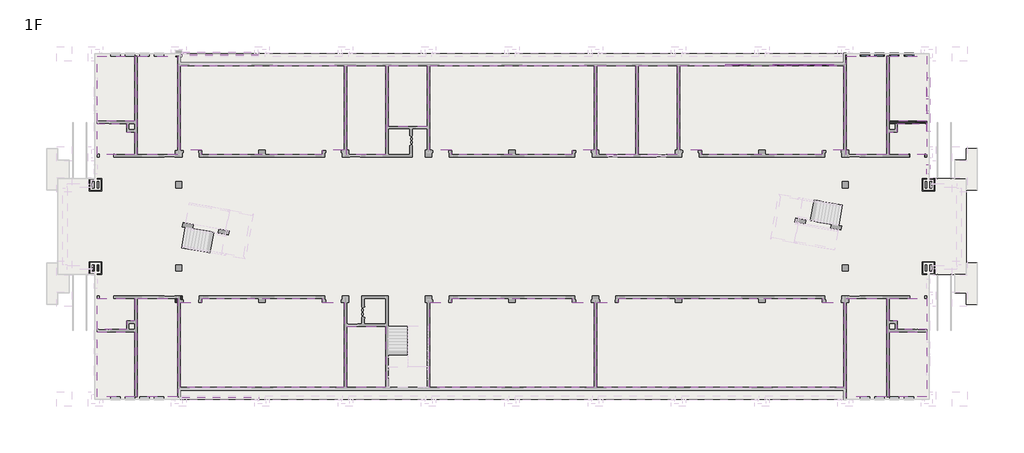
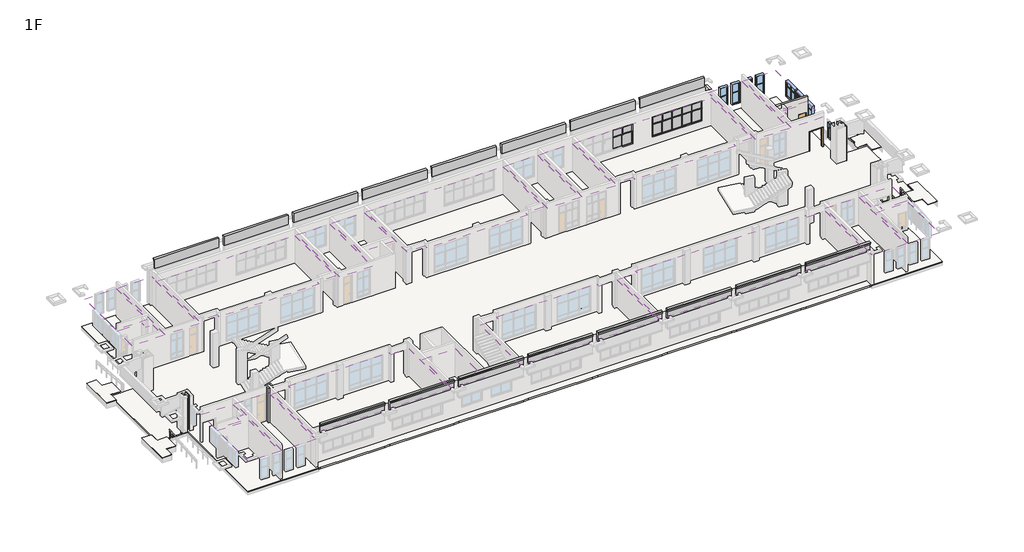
# One storey, part 7 of 16: 33 members, 23 coverings, 11 plates, 8 windows, 7 slabs, 5 walls, 2 columns, 2 doors, 2 proxies.
"""IFC4 building model written with IfcOpenShell, lengths in millimetres."""

from ifc_helpers import new_model, si_unit, frame, origin, origin_with_axes, place, context, project, spatial, polyline, outline, extrude, faceted_brep, transform, mapped, element, save
from components import dk2_dk2_fd451be2, m3_m3_68d9ec90, member_7564be38, member_1f4d75dd, member_0b7842ad, member_163d5e45, member_ffafc35e, member_2b011958, member_9c26cac3, member_6c42befd, member_a374fdad, plate_75e73fbb, plate_f4dba16c, plate_1cc4df2b, plate_4fa5932a, plate_00f9c624, window_f154a97f, lc1_lc1_5b152119, lc2_lc2_a0e1ef0e, lc7_lc7_d4e3c0d7, lc7a_lc7a_17cb4d8c

model = new_model("IFC4")

# Units and contexts
model_context = context("Model", 3, world=origin())
ifc_project = project(units=[si_unit("LENGTHUNIT", "METRE", prefix="MILLI")], contexts=[model_context])

# Site, building, storey
site = spatial("IfcSite", under=ifc_project)
building = spatial("IfcBuilding", under=site)
storey = spatial("IfcBuildingStorey", under=building, Name="1F", Elevation=0.0)

# Proxies
placement = place(None, origin())
element("IfcBuildingElementProxy", 1, Name="空调板围档", ObjectType="空调板围档", at=placement, inside=storey, context=model_context, shape_type="SweptSolid", body=[
    extrude(outline(polyline([(33280.0, 5020.0), (33200.0, 5020.0), (33200.0, 4180.0), (33050.0, 4180.0), (33050.0, 5320.0), (33330.0, 5320.0), (33330.0, 5220.0), (33280.0, 5220.0), (33280.0, 5020.0)])), frame((11300.0, 0.0, 0.0), z_axis=(1.0, 0.0, 0.0), x_axis=(0.0, 1.0, 0.0)), (0.0, 0.0, 1.0), 7400.0),
    extrude(outline(polyline([(33280.0, 5020.0), (33200.0, 5020.0), (33200.0, 4180.0), (33050.0, 4180.0), (33050.0, 5320.0), (33330.0, 5320.0), (33330.0, 5220.0), (33280.0, 5220.0), (33280.0, 5020.0)])), frame((19300.0, 0.0, 0.0), z_axis=(1.0, 0.0, 0.0), x_axis=(0.0, 1.0, 0.0)), (0.0, 0.0, 1.0), 7400.0),
    extrude(outline(polyline([(33280.0, 5020.0), (33200.0, 5020.0), (33200.0, 4180.0), (33050.0, 4180.0), (33050.0, 5320.0), (33330.0, 5320.0), (33330.0, 5220.0), (33280.0, 5220.0), (33280.0, 5020.0)])), frame((27300.0, 0.0, 0.0), z_axis=(1.0, 0.0, 0.0), x_axis=(0.0, 1.0, 0.0)), (0.0, 0.0, 1.0), 7400.0),
    extrude(outline(polyline([(33280.0, 5020.0), (33200.0, 5020.0), (33200.0, 4180.0), (33050.0, 4180.0), (33050.0, 5320.0), (33330.0, 5320.0), (33330.0, 5220.0), (33280.0, 5220.0), (33280.0, 5020.0)])), frame((35300.0, 0.0, 0.0), z_axis=(1.0, 0.0, 0.0), x_axis=(0.0, 1.0, 0.0)), (0.0, 0.0, 1.0), 7400.0),
    extrude(outline(polyline([(33280.0, 5020.0), (33200.0, 5020.0), (33200.0, 4180.0), (33050.0, 4180.0), (33050.0, 5320.0), (33330.0, 5320.0), (33330.0, 5220.0), (33280.0, 5220.0), (33280.0, 5020.0)])), frame((43300.0, 0.0, 0.0), z_axis=(1.0, 0.0, 0.0), x_axis=(0.0, 1.0, 0.0)), (0.0, 0.0, 1.0), 7400.0),
    extrude(outline(polyline([(33280.0, 5020.0), (33200.0, 5020.0), (33200.0, 4180.0), (33050.0, 4180.0), (33050.0, 5320.0), (33330.0, 5320.0), (33330.0, 5220.0), (33280.0, 5220.0), (33280.0, 5020.0)])), frame((51300.0, 0.0, 0.0), z_axis=(1.0, 0.0, 0.0), x_axis=(0.0, 1.0, 0.0)), (0.0, 0.0, 1.0), 7400.0),
    extrude(outline(polyline([(33280.0, 5020.0), (33200.0, 5020.0), (33200.0, 4180.0), (33050.0, 4180.0), (33050.0, 5320.0), (33330.0, 5320.0), (33330.0, 5220.0), (33280.0, 5220.0), (33280.0, 5020.0)])), frame((59300.0, 0.0, 0.0), z_axis=(1.0, 0.0, 0.0), x_axis=(0.0, 1.0, 0.0)), (0.0, 0.0, 1.0), 7400.0),
    extrude(outline(polyline([(33280.0, 5020.0), (33200.0, 5020.0), (33200.0, 4180.0), (33050.0, 4180.0), (33050.0, 5320.0), (33330.0, 5320.0), (33330.0, 5220.0), (33280.0, 5220.0), (33280.0, 5020.0)])), frame((67300.0, 0.0, 0.0), z_axis=(1.0, 0.0, 0.0), x_axis=(0.0, 1.0, 0.0)), (0.0, 0.0, 1.0), 7400.0),
])
element("IfcBuildingElementProxy", 2, Name="空调板围档", ObjectType="空调板围档", at=placement, inside=storey, context=model_context, shape_type="SweptSolid", body=[
    extrude(outline(polyline([(0.0, 5020.0), (-80.0, 5020.0), (-80.0, 5220.0), (-130.0, 5220.0), (-130.0, 5320.0), (150.0, 5320.0), (150.0, 4180.0), (0.0, 4180.0), (0.0, 5020.0)])), frame((11300.0, 0.0, 0.0), z_axis=(1.0, 0.0, 0.0), x_axis=(0.0, 1.0, 0.0)), (0.0, 0.0, 1.0), 7400.0),
    extrude(outline(polyline([(0.0, 5020.0), (-80.0, 5020.0), (-80.0, 5220.0), (-130.0, 5220.0), (-130.0, 5320.0), (150.0, 5320.0), (150.0, 4180.0), (0.0, 4180.0), (0.0, 5020.0)])), frame((19300.0, 0.0, 0.0), z_axis=(1.0, 0.0, 0.0), x_axis=(0.0, 1.0, 0.0)), (0.0, 0.0, 1.0), 7400.0),
    extrude(outline(polyline([(0.0, 5020.0), (-80.0, 5020.0), (-80.0, 5220.0), (-130.0, 5220.0), (-130.0, 5320.0), (150.0, 5320.0), (150.0, 4180.0), (0.0, 4180.0), (0.0, 5020.0)])), frame((27300.0, 0.0, 0.0), z_axis=(1.0, 0.0, 0.0), x_axis=(0.0, 1.0, 0.0)), (0.0, 0.0, 1.0), 7400.0),
    extrude(outline(polyline([(0.0, 5020.0), (-80.0, 5020.0), (-80.0, 5220.0), (-130.0, 5220.0), (-130.0, 5320.0), (150.0, 5320.0), (150.0, 4180.0), (0.0, 4180.0), (0.0, 5020.0)])), frame((35300.0, 0.0, 0.0), z_axis=(1.0, 0.0, 0.0), x_axis=(0.0, 1.0, 0.0)), (0.0, 0.0, 1.0), 7400.0),
    extrude(outline(polyline([(0.0, 5020.0), (-80.0, 5020.0), (-80.0, 5220.0), (-130.0, 5220.0), (-130.0, 5320.0), (150.0, 5320.0), (150.0, 4180.0), (0.0, 4180.0), (0.0, 5020.0)])), frame((43300.0, 0.0, 0.0), z_axis=(1.0, 0.0, 0.0), x_axis=(0.0, 1.0, 0.0)), (0.0, 0.0, 1.0), 7400.0),
    extrude(outline(polyline([(0.0, 5020.0), (-80.0, 5020.0), (-80.0, 5220.0), (-130.0, 5220.0), (-130.0, 5320.0), (150.0, 5320.0), (150.0, 4180.0), (0.0, 4180.0), (0.0, 5020.0)])), frame((51300.0, 0.0, 0.0), z_axis=(1.0, 0.0, 0.0), x_axis=(0.0, 1.0, 0.0)), (0.0, 0.0, 1.0), 7400.0),
    extrude(outline(polyline([(0.0, 5020.0), (-80.0, 5020.0), (-80.0, 5220.0), (-130.0, 5220.0), (-130.0, 5320.0), (150.0, 5320.0), (150.0, 4180.0), (0.0, 4180.0), (0.0, 5020.0)])), frame((59300.0, 0.0, 0.0), z_axis=(1.0, 0.0, 0.0), x_axis=(0.0, 1.0, 0.0)), (0.0, 0.0, 1.0), 7400.0),
    extrude(outline(polyline([(0.0, 5020.0), (-80.0, 5020.0), (-80.0, 5220.0), (-130.0, 5220.0), (-130.0, 5320.0), (150.0, 5320.0), (150.0, 4180.0), (0.0, 4180.0), (0.0, 5020.0)])), frame((67300.0, 0.0, 0.0), z_axis=(1.0, 0.0, 0.0), x_axis=(0.0, 1.0, 0.0)), (0.0, 0.0, 1.0), 7400.0),
])

# Columns
element("IfcColumn", 3, ObjectType="矩形柱 : 600 x 600mm", at=placement, inside=storey, context=model_context, shape_type="SweptSolid", body=[
    extrude(outline(polyline([(3300.0, 12900.0), (3300.0, 12300.0), (3167.0000002, 12300.0), (3167.0000002, 12900.0), (3300.0, 12900.0)])), origin_with_axes(), (0.0, 0.0, 1.0), 4200.0),
    extrude(outline(polyline([(2700.0, 12300.0), (2700.0, 12900.0), (2897.0000002, 12900.0), (2897.0000002, 12300.0), (2700.0, 12300.0)])), origin_with_axes(), (0.0, 0.0, 1.0), 4200.0),
])
element("IfcColumn", 4, ObjectType="矩形柱 : 634 x 634mm", at=placement, inside=storey, context=model_context, shape_type="SweptSolid", body=[
    extrude(outline(polyline([(11117.0, 9917.0), (11317.0, 9917.0), (11317.0, 9517.2768988), (11117.0, 9517.2768988), (11117.0, 9917.0)])), origin_with_axes(), (0.0, 0.0, 1.0), 4200.0),
    extrude(outline(polyline([(10883.0, 9283.0), (10683.0, 9283.0), (10683.0, 9683.276907), (10883.0, 9683.276907), (10883.0, 9283.0)])), origin_with_axes(), (0.0, 0.0, 1.0), 4200.0),
    extrude(outline(polyline([(11317.0, 9283.0), (11117.0, 9283.0), (11117.0, 9283.2768988), (11317.0, 9283.2768988), (11317.0, 9283.0)])), origin_with_axes(), (0.0, 0.0, 1.0), 4200.0),
])

# Coverings
element("IfcCovering", 5, ObjectType="教学楼 - 悬吊式顶棚 - 36mm", at=placement, inside=storey, context=model_context, shape_type="SweptSolid", body=[
    extrude(outline(polyline([(3167.0000002, 26716.2230983), (3167.0000002, 32982.6954639), (6783.0000003, 32982.6954639), (6783.0000003, 26716.2230983), (3167.0000002, 26716.2230983)])), frame((0.0, 0.0, 3400.0), z_axis=(0.0, 0.0, 1.0), x_axis=(1.0, 0.0, 0.0)), (0.0, 0.0, 1.0), 52.0),
])
element("IfcCovering", 6, ObjectType="教学楼 - 悬吊式顶棚 - 36mm", at=placement, inside=storey, context=model_context, shape_type="SweptSolid", body=[
    extrude(outline(polyline([(6783.0000003, 23516.723093), (3167.0000002, 23516.723093), (3167.0000002, 26482.2230983), (5983.0000019, 26482.2230983), (5983.0000019, 25682.2231012), (6783.0000003, 25682.2231012), (6783.0000003, 23516.723093)])), frame((0.0, 0.0, 3400.0), z_axis=(0.0, 0.0, 1.0), x_axis=(1.0, 0.0, 0.0)), (0.0, 0.0, 1.0), 52.0),
])
element("IfcCovering", 7, ObjectType="教学楼 - 悬吊式顶棚 - 36mm", at=placement, inside=storey, context=model_context, shape_type="SweptSolid", body=[
    extrude(outline(polyline([(7017.0000003, 23516.723093), (7017.0000003, 32982.6954639), (10883.0, 32982.6954639), (10883.0, 32200.0), (10883.0, 23516.723093), (7017.0000003, 23516.723093)])), frame((0.0, 0.0, 3400.0), z_axis=(0.0, 0.0, 1.0), x_axis=(1.0, 0.0, 0.0)), (0.0, 0.0, 1.0), 52.0),
])
element("IfcCovering", 8, ObjectType="教学楼 - 悬吊式顶棚 - 36mm", at=placement, inside=storey, context=model_context, shape_type="SweptSolid", body=[
    extrude(outline(polyline([(11117.0, 23916.7231012), (11117.0, 32065.0), (26883.0, 32065.0), (26883.0, 23916.7231007), (24782.9999964, 23916.7231007), (24782.9999964, 23516.6954641), (13216.9999996, 23516.6954641), (13216.9999996, 23916.7231012), (11117.0, 23916.7231012)])), frame((0.0, 0.0, 3400.0), z_axis=(0.0, 0.0, 1.0), x_axis=(1.0, 0.0, 0.0)), (0.0, 0.0, 1.0), 52.0),
])
element("IfcCovering", 9, ObjectType="教学楼 - 悬吊式顶棚 - 36mm", at=placement, inside=storey, context=model_context, shape_type="SweptSolid", body=[
    extrude(outline(polyline([(27117.0, 23516.6954638), (27117.0, 32065.0), (30883.0000029, 32065.0), (30883.0000029, 23516.6954638), (27117.0, 23516.6954638)])), frame((0.0, 0.0, 3400.0), z_axis=(0.0, 0.0, 1.0), x_axis=(1.0, 0.0, 0.0)), (0.0, 0.0, 1.0), 52.0),
])
element("IfcCovering", 10, ObjectType="教学楼 - 悬吊式顶棚 - 36mm", at=placement, inside=storey, context=model_context, shape_type="SweptSolid", body=[
    extrude(outline(polyline([(31117.0000029, 26216.6954638), (31117.0000029, 32065.0), (34883.0, 32065.0), (34883.0, 26216.6954638), (31117.0000029, 26216.6954638)])), frame((0.0, 0.0, 3400.0), z_axis=(0.0, 0.0, 1.0), x_axis=(1.0, 0.0, 0.0)), (0.0, 0.0, 1.0), 52.0),
])
element("IfcCovering", 11, ObjectType="教学楼 - 悬吊式顶棚 - 36mm", at=placement, inside=storey, context=model_context, shape_type="SweptSolid", body=[
    extrude(outline(polyline([(35117.0, 23916.7231012), (35117.0, 32065.0), (50883.0, 32065.0), (50883.0, 23916.7231007), (48783.0000007, 23916.7231007), (48783.0000007, 23516.695464), (37216.999999, 23516.695464), (37216.999999, 23916.7231012), (35117.0, 23916.7231012)])), frame((0.0, 0.0, 3400.0), z_axis=(0.0, 0.0, 1.0), x_axis=(1.0, 0.0, 0.0)), (0.0, 0.0, 1.0), 52.0),
])
element("IfcCovering", 12, ObjectType="教学楼 - 悬吊式顶棚 - 36mm", at=placement, inside=storey, context=model_context, shape_type="SweptSolid", body=[
    extrude(outline(polyline([(51117.0, 23516.6954639), (51117.0, 32065.0), (54883.0000001, 32065.0), (54883.0000001, 23516.6954639), (51117.0, 23516.6954639)])), frame((0.0, 0.0, 3400.0), z_axis=(0.0, 0.0, 1.0), x_axis=(1.0, 0.0, 0.0)), (0.0, 0.0, 1.0), 52.0),
])
element("IfcCovering", 13, ObjectType="教学楼 - 悬吊式顶棚 - 36mm", at=placement, inside=storey, context=model_context, shape_type="SweptSolid", body=[
    extrude(outline(polyline([(55117.0000001, 23516.6954639), (55117.0000001, 32065.0), (58883.0, 32065.0), (58883.0, 23516.6954639), (55117.0000001, 23516.6954639)])), frame((0.0, 0.0, 3400.0), z_axis=(0.0, 0.0, 1.0), x_axis=(1.0, 0.0, 0.0)), (0.0, 0.0, 1.0), 52.0),
])
element("IfcCovering", 14, ObjectType="教学楼 - 悬吊式顶棚 - 36mm", at=placement, inside=storey, context=model_context, shape_type="SweptSolid", body=[
    extrude(outline(polyline([(59117.0, 23916.7231012), (59117.0, 32065.0), (74883.0, 32065.0), (74883.0, 23916.7231011), (72783.0, 23916.7231011), (72783.0, 23516.6954638), (61217.0000032, 23516.6954638), (61217.0000032, 23916.7231012), (59117.0, 23916.7231012)])), frame((0.0, 0.0, 3400.0), z_axis=(0.0, 0.0, 1.0), x_axis=(1.0, 0.0, 0.0)), (0.0, 0.0, 1.0), 52.0),
])
element("IfcCovering", 15, ObjectType="教学楼 - 悬吊式顶棚 - 36mm", at=placement, inside=storey, context=model_context, shape_type="SweptSolid", body=[
    extrude(outline(polyline([(75117.0, 23516.2230996), (75117.0, 32200.0), (75117.0, 32982.6954642), (78983.0000003, 32982.6954642), (78983.0000003, 23516.2230996), (75117.0, 23516.2230996)])), frame((0.0, 0.0, 3400.0), z_axis=(0.0, 0.0, 1.0), x_axis=(1.0, 0.0, 0.0)), (0.0, 0.0, 1.0), 52.0),
])
element("IfcCovering", 16, ObjectType="教学楼 - 悬吊式顶棚 - 36mm", at=placement, inside=storey, context=model_context, shape_type="SweptSolid", body=[
    extrude(outline(polyline([(79217.0000003, 26716.2230996), (79217.0000003, 32982.6954642), (82832.9999995, 32982.6954642), (82832.9999995, 26716.2230996), (79217.0000003, 26716.2230996)])), frame((0.0, 0.0, 3400.0), z_axis=(0.0, 0.0, 1.0), x_axis=(1.0, 0.0, 0.0)), (0.0, 0.0, 1.0), 52.0),
])
element("IfcCovering", 17, ObjectType="教学楼 - 悬吊式顶棚 - 36mm", at=placement, inside=storey, context=model_context, shape_type="SweptSolid", body=[
    extrude(outline(polyline([(82832.9999995, 26482.2230996), (82832.9999995, 23516.2230996), (79217.0000003, 23516.2230996), (79217.0000003, 25682.2230996), (80016.9999995, 25682.2230996), (80016.9999995, 26482.2230996), (82832.9999995, 26482.2230996)])), frame((0.0, 0.0, 3400.0), z_axis=(0.0, 0.0, 1.0), x_axis=(1.0, 0.0, 0.0)), (0.0, 0.0, 1.0), 52.0),
])
element("IfcCovering", 18, ObjectType="教学楼 - 悬吊式顶棚 - 36mm", at=placement, inside=storey, context=model_context, shape_type="SweptSolid", body=[
    extrude(outline(polyline([(82832.9999995, 9683.7769004), (82832.9999995, 6717.7769004), (80016.9999995, 6717.7769004), (80016.9999995, 7517.7769004), (79217.0000003, 7517.7769004), (79217.0000003, 9683.7769004), (82832.9999995, 9683.7769004)])), frame((0.0, 0.0, 3400.0), z_axis=(0.0, 0.0, 1.0), x_axis=(1.0, 0.0, 0.0)), (0.0, 0.0, 1.0), 52.0),
])
element("IfcCovering", 19, ObjectType="教学楼 - 悬吊式顶棚 - 36mm", at=placement, inside=storey, context=model_context, shape_type="SweptSolid", body=[
    extrude(outline(polyline([(82832.9999995, 6483.7769004), (82832.9999995, 217.3045358), (79217.0000003, 217.3045358), (79217.0000003, 6483.7769004), (82832.9999995, 6483.7769004)])), frame((0.0, 0.0, 3400.0), z_axis=(0.0, 0.0, 1.0), x_axis=(1.0, 0.0, 0.0)), (0.0, 0.0, 1.0), 52.0),
])
element("IfcCovering", 20, ObjectType="教学楼 - 悬吊式顶棚 - 36mm", at=placement, inside=storey, context=model_context, shape_type="SweptSolid", body=[
    extrude(outline(polyline([(78983.0000003, 217.3045358), (75117.0, 217.3045358), (75117.0, 1000.0), (75117.0, 9683.7769004), (78983.0000003, 9683.7769004), (78983.0000003, 217.3045358)])), frame((0.0, 0.0, 3400.0), z_axis=(0.0, 0.0, 1.0), x_axis=(1.0, 0.0, 0.0)), (0.0, 0.0, 1.0), 52.0),
])
element("IfcCovering", 21, ObjectType="教学楼 - 悬吊式顶棚 - 36mm", at=placement, inside=storey, context=model_context, shape_type="SweptSolid", body=[
    extrude(outline(polyline([(74883.0, 9283.2768989), (74883.0, 1135.0), (51117.0, 1135.0), (51117.0, 9283.2768993), (53216.9999993, 9283.2768993), (53216.9999993, 9683.3045361), (72783.0, 9683.3045361), (72783.0, 9283.2768989), (74883.0, 9283.2768989)])), frame((0.0, 0.0, 3400.0), z_axis=(0.0, 0.0, 1.0), x_axis=(1.0, 0.0, 0.0)), (0.0, 0.0, 1.0), 52.0),
])
element("IfcCovering", 22, ObjectType="教学楼 - 悬吊式顶棚 - 36mm", at=placement, inside=storey, context=model_context, shape_type="SweptSolid", body=[
    extrude(outline(polyline([(50883.0, 9283.2768993), (50883.0, 1135.0), (35117.0, 1135.0), (35117.0, 9283.2768988), (37216.999999, 9283.2768988), (37216.999999, 9683.304536), (48783.0000007, 9683.304536), (48783.0000007, 9283.2768993), (50883.0, 9283.2768993)])), frame((0.0, 0.0, 3400.0), z_axis=(0.0, 0.0, 1.0), x_axis=(1.0, 0.0, 0.0)), (0.0, 0.0, 1.0), 52.0),
])
element("IfcCovering", 23, ObjectType="教学楼 - 悬吊式顶棚 - 36mm", at=placement, inside=storey, context=model_context, shape_type="SweptSolid", body=[
    extrude(outline(polyline([(30883.0000029, 6983.3045362), (30883.0000029, 1135.0), (27117.0, 1135.0), (27117.0, 6983.3045362), (30883.0000029, 6983.3045362)])), frame((0.0, 0.0, 3400.0), z_axis=(0.0, 0.0, 1.0), x_axis=(1.0, 0.0, 0.0)), (0.0, 0.0, 1.0), 52.0),
])
element("IfcCovering", 24, ObjectType="教学楼 - 悬吊式顶棚 - 36mm", at=placement, inside=storey, context=model_context, shape_type="SweptSolid", body=[
    extrude(outline(polyline([(26883.0, 9283.2768993), (26883.0, 1135.0), (11117.0, 1135.0), (11117.0, 9283.2768988), (13216.9999996, 9283.2768988), (13216.9999996, 9683.3045359), (24782.9999964, 9683.3045359), (24782.9999964, 9283.2768993), (26883.0, 9283.2768993)])), frame((0.0, 0.0, 3400.0), z_axis=(0.0, 0.0, 1.0), x_axis=(1.0, 0.0, 0.0)), (0.0, 0.0, 1.0), 52.0),
])
element("IfcCovering", 25, ObjectType="教学楼 - 悬吊式顶棚 - 36mm", at=placement, inside=storey, context=model_context, shape_type="SweptSolid", body=[
    extrude(outline(polyline([(10883.0, 1000.0), (10883.0, 217.3045361), (7017.0000003, 217.3045361), (7017.0000003, 9683.276907), (10883.0, 9683.276907), (10883.0, 1000.0)])), frame((0.0, 0.0, 3400.0), z_axis=(0.0, 0.0, 1.0), x_axis=(1.0, 0.0, 0.0)), (0.0, 0.0, 1.0), 52.0),
])
element("IfcCovering", 26, ObjectType="教学楼 - 悬吊式顶棚 - 36mm", at=placement, inside=storey, context=model_context, shape_type="SweptSolid", body=[
    extrude(outline(polyline([(6783.0000003, 217.3045361), (3167.0000002, 217.3045361), (3167.0000002, 6483.7769017), (6783.0000003, 6483.7769017), (6783.0000003, 217.3045361)])), frame((0.0, 0.0, 3400.0), z_axis=(0.0, 0.0, 1.0), x_axis=(1.0, 0.0, 0.0)), (0.0, 0.0, 1.0), 52.0),
])
element("IfcCovering", 27, ObjectType="教学楼 - 悬吊式顶棚 - 36mm", at=placement, inside=storey, context=model_context, shape_type="SweptSolid", body=[
    extrude(outline(polyline([(3167.0000002, 6717.7769017), (3167.0000002, 9683.276907), (6783.0000003, 9683.276907), (6783.0000003, 7517.7768988), (5983.0000019, 7517.7768988), (5983.0000019, 6717.7769017), (3167.0000002, 6717.7769017)])), frame((0.0, 0.0, 3400.0), z_axis=(0.0, 0.0, 1.0), x_axis=(1.0, 0.0, 0.0)), (0.0, 0.0, 1.0), 52.0),
])

# Doors
dk2_dk2_shape = dk2_dk2_fd451be2(model_context)
element("IfcDoor", 28, ObjectType="DK2 : DK2", at=placement, inside=storey, context=model_context, shape_type="MappedRepresentation", body=[
    mapped(dk2_dk2_shape, transform((81925.0, 23399.2230996, 0.0), x_axis=(1.0, 0.0, 0.0), y_axis=(0.0, 1.0, 0.0), z_axis=(0.0, 0.0, 1.0))),
])
m3_m3_shape = m3_m3_68d9ec90(model_context)
element("IfcDoor", 29, ObjectType="M3 : M3", at=placement, inside=storey, context=model_context, shape_type="MappedRepresentation", body=[
    mapped(m3_m3_shape, transform((82209.9999983, 26599.2230996, 0.0), x_axis=(-1.0, 0.0, 0.0), y_axis=(0.0, -1.0, 0.0), z_axis=(0.0, 0.0, 1.0))),
])

# Members
member_shape = member_7564be38(model_context)
element("IfcMember", 30, ObjectType="矩形竖梃 : 教学楼 – 矩形竖梃 – 100x150mm", at=placement, inside=storey, context=model_context, shape_type="MappedRepresentation", body=[
    mapped(member_shape, transform((65900.0000002, 32200.0, 3400.0), x_axis=(0.0, 0.0, 1.0), y_axis=(0.0, -1.0, 0.0), z_axis=(1.0, 0.0, 0.0))),
])
element("IfcMember", 31, ObjectType="矩形竖梃 : 教学楼 – 矩形竖梃 – 100x150mm", at=placement, inside=storey, context=model_context, shape_type="MappedRepresentation", body=[
    mapped(member_shape, transform((73899.9999995, 32200.0, 3400.0), x_axis=(0.0, 0.0, 1.0), y_axis=(0.0, -1.0, 0.0), z_axis=(1.0, 0.0, 0.0))),
])
element("IfcMember", 32, ObjectType="矩形竖梃 : 教学楼 – 矩形竖梃 – 100x150mm", at=placement, inside=storey, context=model_context, shape_type="MappedRepresentation", body=[
    mapped(member_shape, transform((68099.9999995, 32200.0, 900.0), x_axis=(0.0, 0.0, -1.0), y_axis=(0.0, -1.0, 0.0), z_axis=(-1.0, 0.0, 0.0))),
])
member_2_shape = member_1f4d75dd(model_context)
element("IfcMember", 33, ObjectType="矩形竖梃 : 教学楼 – 矩形竖梃 – 50x150mm", at=placement, inside=storey, context=model_context, shape_type="MappedRepresentation", body=[
    mapped(member_2_shape, transform((70449.9999995, 32200.0, 1000.0), x_axis=(1.0, 0.0, 0.0), y_axis=(0.0, -1.0, 0.0), z_axis=(0.0, 0.0, -1.0))),
])
element("IfcMember", 34, ObjectType="矩形竖梃 : 教学楼 – 矩形竖梃 – 50x150mm", at=placement, inside=storey, context=model_context, shape_type="MappedRepresentation", body=[
    mapped(member_2_shape, transform((71549.9999995, 32200.0, 1000.0), x_axis=(1.0, 0.0, 0.0), y_axis=(0.0, -1.0, 0.0), z_axis=(0.0, 0.0, -1.0))),
])
member_3_shape = member_0b7842ad(model_context)
element("IfcMember", 35, ObjectType="矩形竖梃 : 教学楼 – 矩形竖梃 – 50x150mm", at=placement, inside=storey, context=model_context, shape_type="MappedRepresentation", body=[
    mapped(member_3_shape, transform((69299.9999995, 32200.0, 2450.0), x_axis=(0.0, 0.0, 1.0), y_axis=(0.0, -1.0, 0.0), z_axis=(1.0, 0.0, 0.0))),
])
member_4_shape = member_163d5e45(model_context)
element("IfcMember", 36, ObjectType="矩形竖梃 : 教学楼 – 矩形竖梃 – 50x150mm", at=placement, inside=storey, context=model_context, shape_type="MappedRepresentation", body=[
    mapped(member_4_shape, transform((64700.0000002, 32200.0, 2450.0), x_axis=(0.0, 0.0, 1.0), y_axis=(0.0, -1.0, 0.0), z_axis=(1.0, 0.0, 0.0))),
])
element("IfcMember", 37, ObjectType="矩形竖梃 : 教学楼 – 矩形竖梃 – 50x150mm", at=placement, inside=storey, context=model_context, shape_type="MappedRepresentation", body=[
    mapped(member_4_shape, transform((70449.9999995, 32200.0, 2450.0), x_axis=(0.0, 0.0, 1.0), y_axis=(0.0, -1.0, 0.0), z_axis=(1.0, 0.0, 0.0))),
])
element("IfcMember", 38, ObjectType="矩形竖梃 : 教学楼 – 矩形竖梃 – 50x150mm", at=placement, inside=storey, context=model_context, shape_type="MappedRepresentation", body=[
    mapped(member_4_shape, transform((72699.9999995, 32200.0, 2450.0), x_axis=(0.0, 0.0, 1.0), y_axis=(0.0, -1.0, 0.0), z_axis=(1.0, 0.0, 0.0))),
])
element("IfcMember", 39, ObjectType="矩形竖梃 : 教学楼 – 矩形竖梃 – 50x150mm", at=placement, inside=storey, context=model_context, shape_type="MappedRepresentation", body=[
    mapped(member_3_shape, transform((71549.9999995, 32200.0, 2450.0), x_axis=(0.0, 0.0, 1.0), y_axis=(0.0, -1.0, 0.0), z_axis=(1.0, 0.0, 0.0))),
])
element("IfcMember", 40, ObjectType="矩形竖梃 : 教学楼 – 矩形竖梃 – 50x150mm", at=placement, inside=storey, context=model_context, shape_type="MappedRepresentation", body=[
    mapped(member_3_shape, transform((65800.0000002, 32200.0, 2450.0), x_axis=(0.0, 0.0, 1.0), y_axis=(0.0, -1.0, 0.0), z_axis=(1.0, 0.0, 0.0))),
])
element("IfcMember", 41, ObjectType="矩形竖梃 : 教学楼 – 矩形竖梃 – 50x150mm", at=placement, inside=storey, context=model_context, shape_type="MappedRepresentation", body=[
    mapped(member_3_shape, transform((73799.9999995, 32200.0, 2450.0), x_axis=(0.0, 0.0, 1.0), y_axis=(0.0, -1.0, 0.0), z_axis=(1.0, 0.0, 0.0))),
])
member_5_shape = member_ffafc35e(model_context)
element("IfcMember", 42, ObjectType="矩形竖梃 : 教学楼 – 矩形竖梃 – 100x150mm", at=placement, inside=storey, context=model_context, shape_type="MappedRepresentation", body=[
    mapped(member_5_shape, transform((69299.9999995, 32200.0, 900.0), x_axis=(0.0, 0.0, -1.0), y_axis=(0.0, -1.0, 0.0), z_axis=(-1.0, 0.0, 0.0))),
])
member_6_shape = member_2b011958(model_context)
element("IfcMember", 43, ObjectType="矩形竖梃 : 教学楼 – 矩形竖梃 – 100x150mm", at=placement, inside=storey, context=model_context, shape_type="MappedRepresentation", body=[
    mapped(member_6_shape, transform((70449.9999995, 32200.0, 900.0), x_axis=(0.0, 0.0, -1.0), y_axis=(0.0, -1.0, 0.0), z_axis=(-1.0, 0.0, 0.0))),
])
element("IfcMember", 44, ObjectType="矩形竖梃 : 教学楼 – 矩形竖梃 – 100x150mm", at=placement, inside=storey, context=model_context, shape_type="MappedRepresentation", body=[
    mapped(member_5_shape, transform((71549.9999995, 32200.0, 900.0), x_axis=(0.0, 0.0, -1.0), y_axis=(0.0, -1.0, 0.0), z_axis=(-1.0, 0.0, 0.0))),
])
element("IfcMember", 45, ObjectType="矩形竖梃 : 教学楼 – 矩形竖梃 – 100x150mm", at=placement, inside=storey, context=model_context, shape_type="MappedRepresentation", body=[
    mapped(member_shape, transform((64700.0000002, 32200.0, 900.0), x_axis=(0.0, 0.0, -1.0), y_axis=(0.0, -1.0, 0.0), z_axis=(-1.0, 0.0, 0.0))),
])
element("IfcMember", 46, ObjectType="矩形竖梃 : 教学楼 – 矩形竖梃 – 100x150mm", at=placement, inside=storey, context=model_context, shape_type="MappedRepresentation", body=[
    mapped(member_shape, transform((72699.9999995, 32200.0, 900.0), x_axis=(0.0, 0.0, -1.0), y_axis=(0.0, -1.0, 0.0), z_axis=(-1.0, 0.0, 0.0))),
])
element("IfcMember", 47, ObjectType="矩形竖梃 : 教学楼 – 矩形竖梃 – 100x150mm", at=placement, inside=storey, context=model_context, shape_type="MappedRepresentation", body=[
    mapped(member_shape, transform((69299.9999995, 32200.0, 3400.0), x_axis=(0.0, 0.0, 1.0), y_axis=(0.0, -1.0, 0.0), z_axis=(1.0, 0.0, 0.0))),
])
element("IfcMember", 48, ObjectType="矩形竖梃 : 教学楼 – 矩形竖梃 – 100x150mm", at=placement, inside=storey, context=model_context, shape_type="MappedRepresentation", body=[
    mapped(member_5_shape, transform((64700.0000002, 32200.0, 3400.0), x_axis=(0.0, 0.0, 1.0), y_axis=(0.0, -1.0, 0.0), z_axis=(1.0, 0.0, 0.0))),
])
element("IfcMember", 49, ObjectType="矩形竖梃 : 教学楼 – 矩形竖梃 – 100x150mm", at=placement, inside=storey, context=model_context, shape_type="MappedRepresentation", body=[
    mapped(member_5_shape, transform((70449.9999995, 32200.0, 3400.0), x_axis=(0.0, 0.0, 1.0), y_axis=(0.0, -1.0, 0.0), z_axis=(1.0, 0.0, 0.0))),
])
element("IfcMember", 50, ObjectType="矩形竖梃 : 教学楼 – 矩形竖梃 – 100x150mm", at=placement, inside=storey, context=model_context, shape_type="MappedRepresentation", body=[
    mapped(member_5_shape, transform((72699.9999995, 32200.0, 3400.0), x_axis=(0.0, 0.0, 1.0), y_axis=(0.0, -1.0, 0.0), z_axis=(1.0, 0.0, 0.0))),
])
element("IfcMember", 51, ObjectType="矩形竖梃 : 教学楼 – 矩形竖梃 – 100x150mm", at=placement, inside=storey, context=model_context, shape_type="MappedRepresentation", body=[
    mapped(member_6_shape, transform((71549.9999995, 32200.0, 3400.0), x_axis=(0.0, 0.0, 1.0), y_axis=(0.0, -1.0, 0.0), z_axis=(1.0, 0.0, 0.0))),
])
member_7_shape = member_9c26cac3(model_context)
element("IfcMember", 52, ObjectType="矩形竖梃 : 教学楼 – 矩形竖梃 – 50x150mm", at=placement, inside=storey, context=model_context, shape_type="MappedRepresentation", body=[
    mapped(member_7_shape, transform((64700.0000002, 32200.0, 2475.0), x_axis=(1.0, 0.0, 0.0), y_axis=(0.0, -1.0, 0.0), z_axis=(0.0, 0.0, -1.0))),
])
element("IfcMember", 53, ObjectType="矩形竖梃 : 教学楼 – 矩形竖梃 – 50x150mm", at=placement, inside=storey, context=model_context, shape_type="MappedRepresentation", body=[
    mapped(member_7_shape, transform((69299.9999995, 32200.0, 2475.0), x_axis=(1.0, 0.0, 0.0), y_axis=(0.0, -1.0, 0.0), z_axis=(0.0, 0.0, -1.0))),
])
element("IfcMember", 54, ObjectType="矩形竖梃 : 教学楼 – 矩形竖梃 – 50x150mm", at=placement, inside=storey, context=model_context, shape_type="MappedRepresentation", body=[
    mapped(member_7_shape, transform((70449.9999995, 32200.0, 2475.0), x_axis=(1.0, 0.0, 0.0), y_axis=(0.0, -1.0, 0.0), z_axis=(0.0, 0.0, -1.0))),
])
element("IfcMember", 55, ObjectType="矩形竖梃 : 教学楼 – 矩形竖梃 – 50x150mm", at=placement, inside=storey, context=model_context, shape_type="MappedRepresentation", body=[
    mapped(member_7_shape, transform((71549.9999995, 32200.0, 2475.0), x_axis=(1.0, 0.0, 0.0), y_axis=(0.0, -1.0, 0.0), z_axis=(0.0, 0.0, -1.0))),
])
element("IfcMember", 56, ObjectType="矩形竖梃 : 教学楼 – 矩形竖梃 – 50x150mm", at=placement, inside=storey, context=model_context, shape_type="MappedRepresentation", body=[
    mapped(member_7_shape, transform((72699.9999995, 32200.0, 2475.0), x_axis=(1.0, 0.0, 0.0), y_axis=(0.0, -1.0, 0.0), z_axis=(0.0, 0.0, -1.0))),
])
member_8_shape = member_6c42befd(model_context)
element("IfcMember", 57, ObjectType="矩形竖梃 : 教学楼 – 矩形竖梃 – 100x150mm", at=placement, inside=storey, context=model_context, shape_type="MappedRepresentation", body=[
    mapped(member_8_shape, transform((68099.9999995, 32200.0, 3300.0), x_axis=(-1.0, 0.0, 0.0), y_axis=(0.0, -1.0, 0.0), z_axis=(0.0, 0.0, 1.0))),
])
member_9_shape = member_a374fdad(model_context)
element("IfcMember", 58, ObjectType="矩形竖梃 : 教学楼 – 矩形竖梃 – 100x150mm", at=placement, inside=storey, context=model_context, shape_type="MappedRepresentation", body=[
    mapped(member_9_shape, transform((65900.0000002, 32200.0, 1000.0), x_axis=(1.0, 0.0, 0.0), y_axis=(0.0, -1.0, 0.0), z_axis=(0.0, 0.0, -1.0))),
])
element("IfcMember", 59, ObjectType="矩形竖梃 : 教学楼 – 矩形竖梃 – 100x150mm", at=placement, inside=storey, context=model_context, shape_type="MappedRepresentation", body=[
    mapped(member_9_shape, transform((73899.9999995, 32200.0, 1000.0), x_axis=(1.0, 0.0, 0.0), y_axis=(0.0, -1.0, 0.0), z_axis=(0.0, 0.0, -1.0))),
])
element("IfcMember", 60, ObjectType="矩形竖梃 : 教学楼 – 矩形竖梃 – 100x150mm", at=placement, inside=storey, context=model_context, shape_type="MappedRepresentation", body=[
    mapped(member_8_shape, transform((65900.0000002, 32200.0, 2450.0), x_axis=(1.0, 0.0, 0.0), y_axis=(0.0, -1.0, 0.0), z_axis=(0.0, 0.0, -1.0))),
])
element("IfcMember", 61, ObjectType="矩形竖梃 : 教学楼 – 矩形竖梃 – 100x150mm", at=placement, inside=storey, context=model_context, shape_type="MappedRepresentation", body=[
    mapped(member_8_shape, transform((73899.9999995, 32200.0, 2450.0), x_axis=(1.0, 0.0, 0.0), y_axis=(0.0, -1.0, 0.0), z_axis=(0.0, 0.0, -1.0))),
])
element("IfcMember", 62, ObjectType="矩形竖梃 : 教学楼 – 矩形竖梃 – 100x150mm", at=placement, inside=storey, context=model_context, shape_type="MappedRepresentation", body=[
    mapped(member_9_shape, transform((68099.9999995, 32200.0, 2450.0), x_axis=(-1.0, 0.0, 0.0), y_axis=(0.0, -1.0, 0.0), z_axis=(0.0, 0.0, 1.0))),
])

# Plates
plate_shape = plate_75e73fbb(model_context)
element("IfcPlate", 63, ObjectType="教学楼 - 窗嵌板：双扇推拉窗 : 教学楼 - 窗嵌板：双扇推拉窗", at=placement, inside=storey, context=model_context, shape_type="MappedRepresentation", body=[
    mapped(plate_shape, transform((69312.4999995, 32200.0, 1000.0), x_axis=(1.0, 0.0, 0.0), y_axis=(0.0, 1.0, 0.0), z_axis=(0.0, 0.0, 1.0))),
])
plate_2_shape = plate_f4dba16c(model_context)
element("IfcPlate", 64, ObjectType="系统嵌板 : 玻璃", at=placement, inside=storey, context=model_context, shape_type="MappedRepresentation", body=[
    mapped(plate_2_shape, transform((70999.9999995, 32200.0, 1000.0), x_axis=(1.0, 0.0, 0.0), y_axis=(0.0, 1.0, 0.0), z_axis=(0.0, 0.0, 1.0))),
])
element("IfcPlate", 65, ObjectType="教学楼 - 窗嵌板：双扇推拉窗 : 教学楼 - 窗嵌板：双扇推拉窗", at=placement, inside=storey, context=model_context, shape_type="MappedRepresentation", body=[
    mapped(plate_shape, transform((64687.5000002, 32200.0, 1000.0), x_axis=(1.0, 0.0, 0.0), y_axis=(0.0, 1.0, 0.0), z_axis=(0.0, 0.0, 1.0))),
])
element("IfcPlate", 66, ObjectType="教学楼 - 窗嵌板：双扇推拉窗 : 教学楼 - 窗嵌板：双扇推拉窗", at=placement, inside=storey, context=model_context, shape_type="MappedRepresentation", body=[
    mapped(plate_shape, transform((72687.4999995, 32200.0, 1000.0), x_axis=(1.0, 0.0, 0.0), y_axis=(0.0, 1.0, 0.0), z_axis=(0.0, 0.0, 1.0))),
])
plate_3_shape = plate_1cc4df2b(model_context)
element("IfcPlate", 67, ObjectType="系统嵌板 : 玻璃", at=placement, inside=storey, context=model_context, shape_type="MappedRepresentation", body=[
    mapped(plate_3_shape, transform((65262.5000002, 32200.0, 2475.0), x_axis=(1.0, 0.0, 0.0), y_axis=(0.0, 1.0, 0.0), z_axis=(0.0, 0.0, 1.0))),
])
element("IfcPlate", 68, ObjectType="系统嵌板 : 玻璃", at=placement, inside=storey, context=model_context, shape_type="MappedRepresentation", body=[
    mapped(plate_3_shape, transform((68737.4999995, 32200.0, 2475.0), x_axis=(1.0, 0.0, 0.0), y_axis=(0.0, 1.0, 0.0), z_axis=(0.0, 0.0, 1.0))),
])
element("IfcPlate", 69, ObjectType="系统嵌板 : 玻璃", at=placement, inside=storey, context=model_context, shape_type="MappedRepresentation", body=[
    mapped(plate_3_shape, transform((73262.4999995, 32200.0, 2475.0), x_axis=(1.0, 0.0, 0.0), y_axis=(0.0, 1.0, 0.0), z_axis=(0.0, 0.0, 1.0))),
])
plate_4_shape = plate_4fa5932a(model_context)
element("IfcPlate", 70, ObjectType="系统嵌板 : 玻璃", at=placement, inside=storey, context=model_context, shape_type="MappedRepresentation", body=[
    mapped(plate_4_shape, transform((64125.0000002, 32200.0, 2475.0), x_axis=(1.0, 0.0, 0.0), y_axis=(0.0, 1.0, 0.0), z_axis=(0.0, 0.0, 1.0))),
])
element("IfcPlate", 71, ObjectType="系统嵌板 : 玻璃", at=placement, inside=storey, context=model_context, shape_type="MappedRepresentation", body=[
    mapped(plate_4_shape, transform((69874.9999995, 32200.0, 2475.0), x_axis=(1.0, 0.0, 0.0), y_axis=(0.0, 1.0, 0.0), z_axis=(0.0, 0.0, 1.0))),
])
element("IfcPlate", 72, ObjectType="系统嵌板 : 玻璃", at=placement, inside=storey, context=model_context, shape_type="MappedRepresentation", body=[
    mapped(plate_4_shape, transform((72124.9999995, 32200.0, 2475.0), x_axis=(1.0, 0.0, 0.0), y_axis=(0.0, 1.0, 0.0), z_axis=(0.0, 0.0, 1.0))),
])
plate_5_shape = plate_00f9c624(model_context)
element("IfcPlate", 73, ObjectType="系统嵌板 : 玻璃", at=placement, inside=storey, context=model_context, shape_type="MappedRepresentation", body=[
    mapped(plate_5_shape, transform((70999.9999995, 32200.0, 2475.0), x_axis=(1.0, 0.0, 0.0), y_axis=(0.0, 1.0, 0.0), z_axis=(0.0, 0.0, 1.0))),
])

# Slabs
element("IfcSlab", 74, ObjectType="教学楼 - 室内地坪", at=placement, inside=storey, context=model_context, shape_type="SweptSolid", body=[
    extrude(outline(polyline([(83049.9999995, 21199.3961574), (86600.0000001, 21199.3961574), (86600.0000001, 12000.6038426), (83049.9999995, 12000.6038426), (83049.9999995, 0.3045358), (74900.0, 0.3045358), (74900.0, 918.0), (11100.0, 918.0), (11100.0, 0.3045361), (2950.0000002, 0.3045361), (2950.0000002, 12000.6038426), (-600.0000001, 12000.6038426), (-600.0000001, 21199.3961574), (2950.0000002, 21199.3961574), (2950.0000002, 33199.6954639), (11100.0, 33199.6954639), (11100.0, 32282.0), (74900.0, 32282.0), (74900.0, 33199.6954642), (83049.9999995, 33199.6954642), (83049.9999995, 21199.3961574)])), frame((0.0, 0.0, -120.0), z_axis=(0.0, 0.0, 1.0), x_axis=(1.0, 0.0, 0.0)), (0.0, 0.0, 1.0), 120.0),
])
element("IfcSlab", 75, ObjectType="教学楼 – 防水楼面 – 120mm", at=placement, inside=storey, context=model_context, shape_type="SweptSolid", body=[
    extrude(outline(polyline([(11100.0, 32292.0), (11100.0, 33200.0), (11300.0, 33200.0), (18700.0, 33200.0), (19300.0, 33200.0), (26700.0, 33200.0), (27300.0, 33200.0), (34700.0, 33200.0), (35300.0, 33200.0), (42700.0, 33200.0), (43300.0, 33200.0), (50700.0, 33200.0), (51300.0, 33200.0), (58700.0, 33200.0), (59300.0, 33200.0), (66700.0, 33200.0), (67300.0, 33200.0), (74700.0, 33200.0), (74900.0, 33200.0), (74900.0, 32292.0), (11100.0, 32292.0)])), frame((0.0, 0.0, -200.0), z_axis=(0.0, 0.0, 1.0), x_axis=(1.0, 0.0, 0.0)), (0.0, 0.0, 1.0), 180.0),
])
element("IfcSlab", 76, ObjectType="教学楼 – 防水楼面 – 120mm", at=placement, inside=storey, context=model_context, shape_type="SweptSolid", body=[
    extrude(outline(polyline([(11100.0, 918.0), (74900.0, 918.0), (74900.0, 0.0), (74700.0, 0.0), (67300.0, 0.0), (66700.0, 0.0), (59300.0, 0.0), (58700.0, 0.0), (51300.0, 0.0), (50700.0, 0.0), (43300.0, 0.0), (42700.0, 0.0), (35300.0, 0.0), (34700.0, 0.0), (27300.0, 0.0), (26700.0, 0.0), (19300.0, 0.0), (18700.0, 0.0), (11300.0, 0.0), (11100.0, 0.0), (11100.0, 918.0)])), frame((0.0, 0.0, -200.0), z_axis=(0.0, 0.0, 1.0), x_axis=(1.0, 0.0, 0.0)), (0.0, 0.0, 1.0), 180.0),
])
element("IfcSlab", 77, ObjectType="土壤", at=placement, inside=storey, context=model_context, shape_type="SweptSolid", body=[
    extrude(outline(polyline([(-1700.0000001, 24099.6454368), (-600.0000001, 24099.6454368), (-600.0000001, 22999.3961574), (500.0, 22999.3961574), (500.0, 21199.7006935), (-600.0000001, 21199.7006935), (-600.0000001, 20099.6902344), (-1700.0000001, 20099.6902344), (-1700.0000001, 24099.6454368)])), frame((0.0, 0.0, 150.0), z_axis=(0.0, 0.0, 1.0), x_axis=(1.0, 0.0, 0.0)), (0.0, 0.0, 1.0), 50.0),
])
element("IfcSlab", 78, ObjectType="土壤", at=placement, inside=storey, context=model_context, shape_type="SweptSolid", body=[
    extrude(outline(polyline([(-1700.0000001, 9100.3545632), (-1700.0000001, 13100.3097656), (-600.0000001, 13100.3097656), (-600.0000001, 12000.2993065), (500.0, 12000.2993065), (500.0, 10200.6038426), (-600.0000001, 10200.6038426), (-600.0000001, 9100.3545632), (-1700.0000001, 9100.3545632)])), frame((0.0, 0.0, 150.0), z_axis=(0.0, 0.0, 1.0), x_axis=(1.0, 0.0, 0.0)), (0.0, 0.0, 1.0), 50.0),
])
element("IfcSlab", 79, ObjectType="土壤", at=placement, inside=storey, context=model_context, shape_type="SweptSolid", body=[
    extrude(outline(polyline([(87700.0000001, 9100.3545632), (86600.0000001, 9100.3545632), (86600.0000001, 10200.6038426), (85500.0, 10200.6038426), (85500.0, 12000.2993065), (86600.0000001, 12000.2993065), (86600.0000001, 13100.3097656), (87700.0000001, 13100.3097656), (87700.0000001, 9100.3545632)])), frame((0.0, 0.0, 150.0), z_axis=(0.0, 0.0, 1.0), x_axis=(1.0, 0.0, 0.0)), (0.0, 0.0, 1.0), 50.0),
])
element("IfcSlab", 80, ObjectType="土壤", at=placement, inside=storey, context=model_context, shape_type="SweptSolid", body=[
    extrude(outline(polyline([(87700.0000001, 24099.6454368), (87700.0000001, 20099.6902344), (86600.0000001, 20099.6902344), (86600.0000001, 21199.7006935), (85500.0, 21199.7006935), (85500.0, 22999.3961574), (86600.0000001, 22999.3961574), (86600.0000001, 24099.6454368), (87700.0000001, 24099.6454368)])), frame((0.0, 0.0, 150.0), z_axis=(0.0, 0.0, 1.0), x_axis=(1.0, 0.0, 0.0)), (0.0, 0.0, 1.0), 50.0),
])

# Walls
element("IfcWall", 81, ObjectType="教学楼 – 文化石外墙 – 200mm", at=placement, inside=storey, context=model_context, shape_type="Brep", body=[
    faceted_brep([(75117.0, 32335.0, 0.0), (75117.0, 32900.0, 0.0), (75117.0, 32982.6954642, 0.0), (75117.0, 33252.6954642, 0.0), (75117.0, 33252.6954642, 4200.0), (75117.0, 32982.6954642, 4200.0), (75117.0, 32900.0, 4200.0), (75117.0, 32335.0, 4200.0), (74847.0, 32335.0, 0.0), (74847.0, 32335.0, 4200.0), (74847.0, 32900.0, 4200.0), (74847.0, 33252.6954642, 4200.0), (74847.0, 33252.6954642, 0.0), (74847.0, 32900.0, 0.0)], [[[0, 1, 2, 3, 4, 5, 6, 7]], [[8, 9, 10, 11, 12, 13]], [[3, 2, 1, 0, 8, 13, 12]], [[7, 6, 5, 4, 11, 10, 9]], [[0, 7, 9, 8]], [[4, 3, 12, 11]]]),
])
element("IfcWall", 82, ObjectType="教学楼 – 涂料内墙 – 200mm", at=placement, inside=storey, context=model_context, shape_type="Brep", body=[
    faceted_brep([(82832.9999995, 26482.2230996, 4200.0), (80016.9999995, 26482.2230996, 4200.0), (79782.9999995, 26482.2230996, 4200.0), (79217.0000003, 26482.2230996, 4200.0), (79217.0000003, 26482.2230996, 0.0), (79782.9999995, 26482.2230996, 0.0), (80016.9999995, 26482.2230996, 0.0), (81709.9999983, 26482.2230996, 0.0), (81709.9999983, 26482.2230996, 2300.0), (82709.9999983, 26482.2230996, 2300.0), (82709.9999983, 26482.2230996, 0.0), (82832.9999995, 26482.2230996, 0.0), (79217.0000003, 26716.2230996, 4200.0), (82832.9999995, 26716.2230996, 4200.0), (82832.9999995, 26716.2230996, 0.0), (82709.9999983, 26716.2230996, 0.0), (82709.9999983, 26716.2230996, 2300.0), (81709.9999983, 26716.2230996, 2300.0), (81709.9999983, 26716.2230996, 0.0), (79217.0000003, 26716.2230996, 0.0)], [[[0, 1, 2, 3, 4, 5, 6, 7, 8, 9, 10, 11]], [[12, 13, 14, 15, 16, 17, 18, 19]], [[4, 19, 18, 7, 6, 5]], [[14, 11, 10, 15]], [[3, 2, 1, 0, 13, 12]], [[4, 3, 12, 19]], [[0, 11, 14, 13]], [[17, 8, 7, 18]], [[8, 17, 16, 9]], [[9, 16, 15, 10]]]),
])
element("IfcWall", 83, ObjectType="教学楼 – 干挂石材 – 30mm", at=placement, inside=storey, context=model_context, shape_type="Brep", body=[
    faceted_brep([(83102.9999995, 21169.6902344, 0.0), (83570.0000001, 21169.6902344, 0.0), (83600.0000001, 21169.6902344, 0.0), (83600.0000001, 21169.6902344, 4200.0), (83570.0000001, 21169.6902344, 4200.0), (83102.9999995, 21169.6902344, 4200.0), (83102.9999995, 21199.6902344, 0.0), (83102.9999995, 21199.6902344, 4200.0), (83600.0000001, 21199.6902344, 4200.0), (83600.0000001, 21199.6902344, 0.0)], [[[0, 1, 2, 3, 4, 5]], [[6, 7, 8, 9]], [[2, 1, 0, 6, 9]], [[5, 4, 3, 8, 7]], [[0, 5, 7, 6]], [[3, 2, 9, 8]]]),
])
element("IfcWall", 84, ObjectType="教学楼 – 干挂石材 – 30mm", at=placement, inside=storey, context=model_context, shape_type="Brep", body=[
    faceted_brep([(83570.0000001, 21169.6902344, 0.0), (83570.0000001, 20029.6902344, 0.0), (83570.0000001, 19999.6902344, 0.0), (83570.0000001, 19999.6902344, 4200.0), (83570.0000001, 20029.6902344, 4200.0), (83570.0000001, 21169.6902344, 4200.0), (83600.0000001, 21169.6902344, 0.0), (83600.0000001, 21169.6902344, 4200.0), (83600.0000001, 19999.6902344, 4200.0), (83600.0000001, 19999.6902344, 0.0)], [[[0, 1, 2, 3, 4, 5]], [[6, 7, 8, 9]], [[2, 1, 0, 6, 9]], [[5, 4, 3, 8, 7]], [[0, 5, 7, 6]], [[3, 2, 9, 8]]]),
])
element("IfcWall", 85, ObjectType="教学楼 – 干挂石材 – 30mm", at=placement, inside=storey, context=model_context, shape_type="SweptSolid", body=[
    extrude(outline(polyline([(82832.9999995, 21169.6902344), (82430.0000001, 21169.6902344), (82430.0000001, 21199.6902344), (82832.9999995, 21199.6902344), (82832.9999995, 21169.6902344)])), origin_with_axes(), (0.0, 0.0, 1.0), 4200.0),
])

# Windows
window_shape = window_f154a97f(model_context)
element("IfcWindow", 86, ObjectType="LC9_带格栅 : LC9_带格栅", at=placement, inside=storey, context=model_context, shape_type="MappedRepresentation", body=[
    mapped(window_shape, transform((82959.3011339, 28299.2230731, 0.0), x_axis=(0.0, -1.0, 0.0), y_axis=(1.0, 0.0, 0.0), z_axis=(0.0, 0.0, 1.0))),
])
lc1_lc1_shape = lc1_lc1_5b152119(model_context)
element("IfcWindow", 87, ObjectType="LC1 : LC1", at=placement, inside=storey, context=model_context, shape_type="MappedRepresentation", body=[
    mapped(lc1_lc1_shape, transform((76910.0000011, 33117.6954642, 0.0), x_axis=(-1.0, 0.0, 0.0), y_axis=(0.0, -1.0, 0.0), z_axis=(0.0, 0.0, 1.0))),
])
element("IfcWindow", 88, ObjectType="LC1 : LC1", at=placement, inside=storey, context=model_context, shape_type="MappedRepresentation", body=[
    mapped(lc1_lc1_shape, transform((78309.9999987, 33117.6954642, 0.0), x_axis=(-1.0, 0.0, 0.0), y_axis=(0.0, -1.0, 0.0), z_axis=(0.0, 0.0, 1.0))),
])
element("IfcWindow", 89, ObjectType="LC1 : LC1", at=placement, inside=storey, context=model_context, shape_type="MappedRepresentation", body=[
    mapped(lc1_lc1_shape, transform((79709.9999987, 33117.6954642, 0.0), x_axis=(-1.0, 0.0, 0.0), y_axis=(0.0, -1.0, 0.0), z_axis=(0.0, 0.0, 1.0))),
])
element("IfcWindow", 90, ObjectType="LC1 : LC1", at=placement, inside=storey, context=model_context, shape_type="MappedRepresentation", body=[
    mapped(lc1_lc1_shape, transform((81109.9999987, 33117.6954642, 0.0), x_axis=(-1.0, 0.0, 0.0), y_axis=(0.0, -1.0, 0.0), z_axis=(0.0, 0.0, 1.0))),
])
lc2_lc2_shape = lc2_lc2_a0e1ef0e(model_context)
element("IfcWindow", 91, ObjectType="LC2 : LC2", at=placement, inside=storey, context=model_context, shape_type="MappedRepresentation", body=[
    mapped(lc2_lc2_shape, transform((82968.0, 22099.6954639, 0.0), x_axis=(0.0, -1.0, 0.0), y_axis=(1.0, 0.0, 0.0), z_axis=(0.0, 0.0, 1.0))),
])
lc7_lc7_shape = lc7_lc7_d4e3c0d7(model_context)
element("IfcWindow", 92, ObjectType="LC7 : LC7", at=placement, inside=storey, context=model_context, shape_type="MappedRepresentation", body=[
    mapped(lc7_lc7_shape, transform((82959.3011339, 29999.2230996, 0.0), x_axis=(0.0, -1.0, 0.0), y_axis=(1.0, 0.0, 0.0), z_axis=(0.0, 0.0, 1.0))),
])
lc7a_lc7a_shape = lc7a_lc7a_17cb4d8c(model_context)
element("IfcWindow", 93, ObjectType="LC7A : LC7A", at=placement, inside=storey, context=model_context, shape_type="MappedRepresentation", body=[
    mapped(lc7a_lc7a_shape, transform((82967.9048675, 26599.2230975, 0.0), x_axis=(0.0, -1.0, 0.0), y_axis=(1.0, 0.0, 0.0), z_axis=(0.0, 0.0, 1.0))),
])

save(model, "model.ifc")
